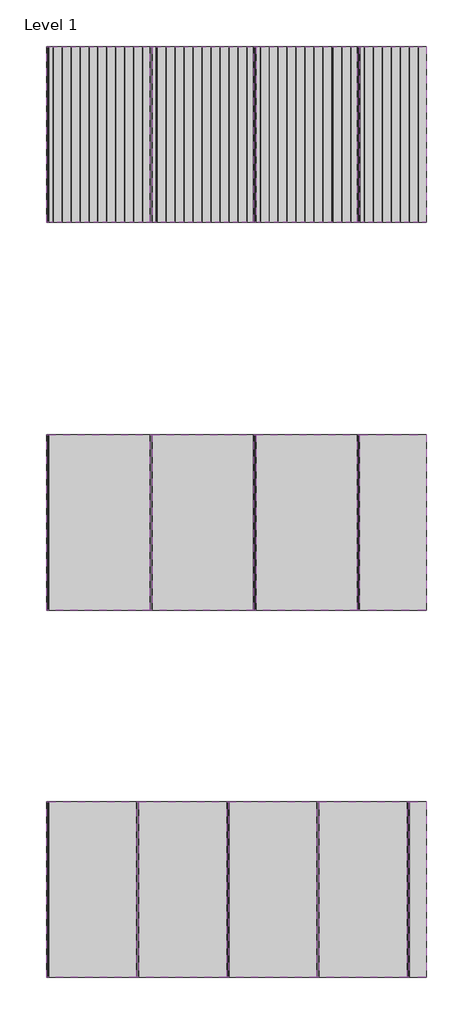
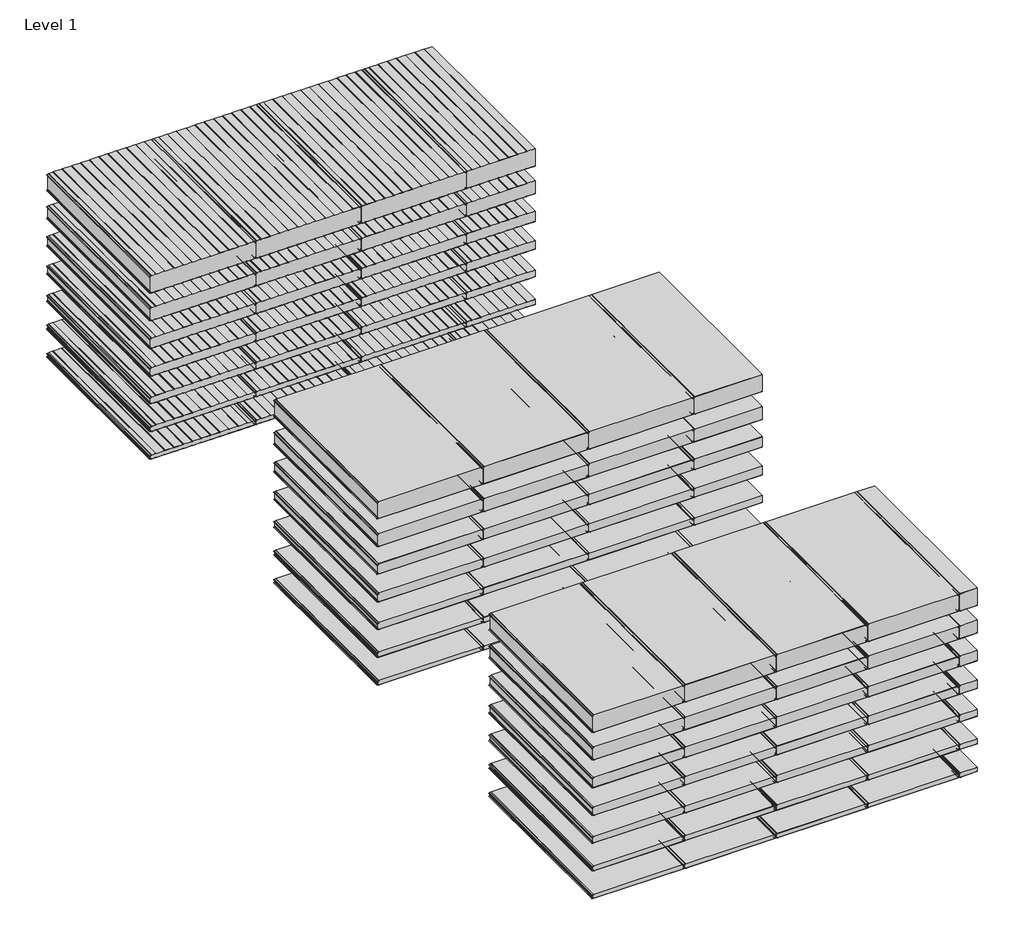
# One storey, part 1 of 4: 91 plates.
"""IFC4 building model written with IfcOpenShell, lengths in millimetres."""

from ifc_helpers import new_model, si_unit, origin, place, context, project, spatial, transform, mapped, element, save
from components import pm1_curtain_panel_flat_profile_e10bb834, pm1_curtain_panel_flat_profile_e4c4468b, pm1_curtain_panel_flat_profile_d683fd57, pm1_curtain_panel_flat_profile_28417d67, pm1_curtain_panel_flat_profile_38d8eda8, pm1_curtain_panel_flat_profile_87bdf2c1, pm1_curtain_panel_flat_profile_24c4898d, pm1_curtain_panel_flat_profile_1d2014c8, pm1_curtain_panel_flat_profile_3b441832, pm1_curtain_panel_flat_profile_61f180d3, pm1_curtain_panel_flat_profile_9da28195, pm1_curtain_panel_flat_profile_449bc577, pm1_curtain_panel_flat_profile_6b683dde, pm1_curtain_panel_flat_profile_43c2f4df, pm1_curtain_panel_micro_ribbed_profile_30c74792, pm1_curtain_panel_micro_ribbed_profile_b77677c2, pm1_curtain_panel_micro_ribbed_profile_ceefda32, pm1_curtain_panel_micro_ribbed_profile_d67f2b87, pm1_curtain_panel_micro_ribbed_profile_48cc8e15, pm1_curtain_panel_micro_ribbed_profile_fcd02327, pm1_curtain_panel_micro_ribbed_profile_a62dc2c1, pm1_curtain_panel_micro_ribbed_profile_8fb5820e, pm1_curtain_panel_micro_ribbed_profile_298a3a5b, pm1_curtain_panel_micro_ribbed_profile_ab274a87, pm1_curtain_panel_micro_ribbed_profile_64cba3bc, pm1_curtain_panel_micro_ribbed_profile_cd397411, pm1_curtain_panel_micro_ribbed_profile_67f7228b, pm1_curtain_panel_micro_ribbed_profile_d84f3b6b, pmh_curtain_panel_flat_profile_34526b51, pmh_curtain_panel_flat_profile_a0c31ac1, pmh_curtain_panel_flat_profile_7f0bee08, pmh_curtain_panel_flat_profile_5727f60d, pmh_curtain_panel_flat_profile_f58c8318, pmh_curtain_panel_flat_profile_b96734d3, pmh_curtain_panel_flat_profile_00a58165, pmh_curtain_panel_flat_profile_fc6ff3bb, pmh_curtain_panel_flat_profile_669fca09, pmh_curtain_panel_flat_profile_94c8216d, pmh_curtain_panel_flat_profile_6eb7b3d5, pmh_curtain_panel_flat_profile_8c9b6431, pmh_curtain_panel_flat_profile_30854e42, pmh_curtain_panel_flat_profile_756ba8ea

model = new_model("IFC4")

# Units and contexts
model_context = context("Model", 3, world=origin())
ifc_project = project(units=[si_unit("LENGTHUNIT", "METRE", prefix="MILLI")], contexts=[model_context])

# Site, building, storey
site = spatial("IfcSite", under=ifc_project)
building = spatial("IfcBuilding", under=site)
storey = spatial("IfcBuildingStorey", under=building, Name="Level 1", Elevation=0.0)

# Plates
placement = place(None, origin())
pm1_curtain_panel_flat_profile_shape = pm1_curtain_panel_flat_profile_e10bb834(model_context)
element("IfcPlate", 1, ObjectType="PM1_Curtain-Panel_Flat-profile : ACH_PM1_Stone-wool-Panel_200M", at=placement, inside=storey, context=model_context, shape_type="MappedRepresentation", body=[
    mapped(pm1_curtain_panel_flat_profile_shape, transform((-20457.9364012, -9019.7144508, 1920.0), x_axis=(1.0, 0.0, 0.0), y_axis=(0.0, 0.0, -1.0), z_axis=(0.0, 1.0, 0.0))),
])
element("IfcPlate", 2, ObjectType="PM1_Curtain-Panel_Flat-profile : ACH_PM1_Stone-wool-Panel_200M", at=placement, inside=storey, context=model_context, shape_type="MappedRepresentation", body=[
    mapped(pm1_curtain_panel_flat_profile_shape, transform((-19307.9364012, -9019.7144508, 1920.0), x_axis=(1.0, 0.0, 0.0), y_axis=(0.0, 0.0, -1.0), z_axis=(0.0, 1.0, 0.0))),
])
element("IfcPlate", 3, ObjectType="PM1_Curtain-Panel_Flat-profile : ACH_PM1_Stone-wool-Panel_200M", at=placement, inside=storey, context=model_context, shape_type="MappedRepresentation", body=[
    mapped(pm1_curtain_panel_flat_profile_shape, transform((-18157.9364012, -9019.7144508, 1920.0), x_axis=(1.0, 0.0, 0.0), y_axis=(0.0, 0.0, -1.0), z_axis=(0.0, 1.0, 0.0))),
])
pm1_curtain_panel_flat_profile_2_shape = pm1_curtain_panel_flat_profile_e4c4468b(model_context)
element("IfcPlate", 4, ObjectType="PM1_Curtain-Panel_Flat-profile : ACH_PM1_Stone-wool-Panel_200M", at=placement, inside=storey, context=model_context, shape_type="MappedRepresentation", body=[
    mapped(pm1_curtain_panel_flat_profile_2_shape, transform((-17207.9244272, -9019.7144508, 1920.0), x_axis=(1.0, 0.0, 0.0), y_axis=(0.0, 0.0, -1.0), z_axis=(0.0, 1.0, 0.0))),
])
pm1_curtain_panel_flat_profile_3_shape = pm1_curtain_panel_flat_profile_d683fd57(model_context)
element("IfcPlate", 5, ObjectType="PM1_Curtain-Panel_Flat-profile : ACH_PM1_Stone-wool-Panel_150M", at=placement, inside=storey, context=model_context, shape_type="MappedRepresentation", body=[
    mapped(pm1_curtain_panel_flat_profile_3_shape, transform((-20457.9364012, -9019.7144508, 1600.0), x_axis=(1.0, 0.0, 0.0), y_axis=(0.0, 0.0, -1.0), z_axis=(0.0, 1.0, 0.0))),
])
element("IfcPlate", 6, ObjectType="PM1_Curtain-Panel_Flat-profile : ACH_PM1_Stone-wool-Panel_150M", at=placement, inside=storey, context=model_context, shape_type="MappedRepresentation", body=[
    mapped(pm1_curtain_panel_flat_profile_3_shape, transform((-19307.9364012, -9019.7144508, 1600.0), x_axis=(1.0, 0.0, 0.0), y_axis=(0.0, 0.0, -1.0), z_axis=(0.0, 1.0, 0.0))),
])
element("IfcPlate", 7, ObjectType="PM1_Curtain-Panel_Flat-profile : ACH_PM1_Stone-wool-Panel_150M", at=placement, inside=storey, context=model_context, shape_type="MappedRepresentation", body=[
    mapped(pm1_curtain_panel_flat_profile_3_shape, transform((-18157.9364012, -9019.7144508, 1600.0), x_axis=(1.0, 0.0, 0.0), y_axis=(0.0, 0.0, -1.0), z_axis=(0.0, 1.0, 0.0))),
])
pm1_curtain_panel_flat_profile_4_shape = pm1_curtain_panel_flat_profile_28417d67(model_context)
element("IfcPlate", 8, ObjectType="PM1_Curtain-Panel_Flat-profile : ACH_PM1_Stone-wool-Panel_150M", at=placement, inside=storey, context=model_context, shape_type="MappedRepresentation", body=[
    mapped(pm1_curtain_panel_flat_profile_4_shape, transform((-17207.9244272, -9019.7144508, 1600.0), x_axis=(1.0, 0.0, 0.0), y_axis=(0.0, 0.0, -1.0), z_axis=(0.0, 1.0, 0.0))),
])
pm1_curtain_panel_flat_profile_5_shape = pm1_curtain_panel_flat_profile_38d8eda8(model_context)
element("IfcPlate", 9, ObjectType="PM1_Curtain-Panel_Flat-profile : ACH_PM1_Stone-wool-Panel_120M", at=placement, inside=storey, context=model_context, shape_type="MappedRepresentation", body=[
    mapped(pm1_curtain_panel_flat_profile_5_shape, transform((-20457.9364012, -9019.7144508, 1280.0), x_axis=(1.0, 0.0, 0.0), y_axis=(0.0, 0.0, -1.0), z_axis=(0.0, 1.0, 0.0))),
])
element("IfcPlate", 10, ObjectType="PM1_Curtain-Panel_Flat-profile : ACH_PM1_Stone-wool-Panel_120M", at=placement, inside=storey, context=model_context, shape_type="MappedRepresentation", body=[
    mapped(pm1_curtain_panel_flat_profile_5_shape, transform((-19307.9364012, -9019.7144508, 1280.0), x_axis=(1.0, 0.0, 0.0), y_axis=(0.0, 0.0, -1.0), z_axis=(0.0, 1.0, 0.0))),
])
element("IfcPlate", 11, ObjectType="PM1_Curtain-Panel_Flat-profile : ACH_PM1_Stone-wool-Panel_120M", at=placement, inside=storey, context=model_context, shape_type="MappedRepresentation", body=[
    mapped(pm1_curtain_panel_flat_profile_5_shape, transform((-18157.9364012, -9019.7144508, 1280.0), x_axis=(1.0, 0.0, 0.0), y_axis=(0.0, 0.0, -1.0), z_axis=(0.0, 1.0, 0.0))),
])
pm1_curtain_panel_flat_profile_6_shape = pm1_curtain_panel_flat_profile_87bdf2c1(model_context)
element("IfcPlate", 12, ObjectType="PM1_Curtain-Panel_Flat-profile : ACH_PM1_Stone-wool-Panel_120M", at=placement, inside=storey, context=model_context, shape_type="MappedRepresentation", body=[
    mapped(pm1_curtain_panel_flat_profile_6_shape, transform((-17207.9244272, -9019.7144508, 1280.0), x_axis=(1.0, 0.0, 0.0), y_axis=(0.0, 0.0, -1.0), z_axis=(0.0, 1.0, 0.0))),
])
pm1_curtain_panel_flat_profile_7_shape = pm1_curtain_panel_flat_profile_24c4898d(model_context)
element("IfcPlate", 13, ObjectType="PM1_Curtain-Panel_Flat-profile : ACH_PM1_Stone-wool-Panel_100M", at=placement, inside=storey, context=model_context, shape_type="MappedRepresentation", body=[
    mapped(pm1_curtain_panel_flat_profile_7_shape, transform((-20457.9364012, -9019.7144508, 960.0), x_axis=(1.0, 0.0, 0.0), y_axis=(0.0, 0.0, -1.0), z_axis=(0.0, 1.0, 0.0))),
])
element("IfcPlate", 14, ObjectType="PM1_Curtain-Panel_Flat-profile : ACH_PM1_Stone-wool-Panel_100M", at=placement, inside=storey, context=model_context, shape_type="MappedRepresentation", body=[
    mapped(pm1_curtain_panel_flat_profile_7_shape, transform((-19307.9364012, -9019.7144508, 960.0), x_axis=(1.0, 0.0, 0.0), y_axis=(0.0, 0.0, -1.0), z_axis=(0.0, 1.0, 0.0))),
])
element("IfcPlate", 15, ObjectType="PM1_Curtain-Panel_Flat-profile : ACH_PM1_Stone-wool-Panel_100M", at=placement, inside=storey, context=model_context, shape_type="MappedRepresentation", body=[
    mapped(pm1_curtain_panel_flat_profile_7_shape, transform((-18157.9364012, -9019.7144508, 960.0), x_axis=(1.0, 0.0, 0.0), y_axis=(0.0, 0.0, -1.0), z_axis=(0.0, 1.0, 0.0))),
])
pm1_curtain_panel_flat_profile_8_shape = pm1_curtain_panel_flat_profile_1d2014c8(model_context)
element("IfcPlate", 16, ObjectType="PM1_Curtain-Panel_Flat-profile : ACH_PM1_Stone-wool-Panel_100M", at=placement, inside=storey, context=model_context, shape_type="MappedRepresentation", body=[
    mapped(pm1_curtain_panel_flat_profile_8_shape, transform((-17207.9244272, -9019.7144508, 960.0), x_axis=(1.0, 0.0, 0.0), y_axis=(0.0, 0.0, -1.0), z_axis=(0.0, 1.0, 0.0))),
])
pm1_curtain_panel_flat_profile_9_shape = pm1_curtain_panel_flat_profile_3b441832(model_context)
element("IfcPlate", 17, ObjectType="PM1_Curtain-Panel_Flat-profile : ACH_PM1_Stone-wool-Panel_80M", at=placement, inside=storey, context=model_context, shape_type="MappedRepresentation", body=[
    mapped(pm1_curtain_panel_flat_profile_9_shape, transform((-20457.9364012, -9019.7144508, 640.0), x_axis=(1.0, 0.0, 0.0), y_axis=(0.0, 0.0, -1.0), z_axis=(0.0, 1.0, 0.0))),
])
element("IfcPlate", 18, ObjectType="PM1_Curtain-Panel_Flat-profile : ACH_PM1_Stone-wool-Panel_80M", at=placement, inside=storey, context=model_context, shape_type="MappedRepresentation", body=[
    mapped(pm1_curtain_panel_flat_profile_9_shape, transform((-19307.9364012, -9019.7144508, 640.0), x_axis=(1.0, 0.0, 0.0), y_axis=(0.0, 0.0, -1.0), z_axis=(0.0, 1.0, 0.0))),
])
element("IfcPlate", 19, ObjectType="PM1_Curtain-Panel_Flat-profile : ACH_PM1_Stone-wool-Panel_80M", at=placement, inside=storey, context=model_context, shape_type="MappedRepresentation", body=[
    mapped(pm1_curtain_panel_flat_profile_9_shape, transform((-18157.9364012, -9019.7144508, 640.0), x_axis=(1.0, 0.0, 0.0), y_axis=(0.0, 0.0, -1.0), z_axis=(0.0, 1.0, 0.0))),
])
pm1_curtain_panel_flat_profile_10_shape = pm1_curtain_panel_flat_profile_61f180d3(model_context)
element("IfcPlate", 20, ObjectType="PM1_Curtain-Panel_Flat-profile : ACH_PM1_Stone-wool-Panel_80M", at=placement, inside=storey, context=model_context, shape_type="MappedRepresentation", body=[
    mapped(pm1_curtain_panel_flat_profile_10_shape, transform((-17207.9244272, -9019.7144508, 640.0), x_axis=(1.0, 0.0, 0.0), y_axis=(0.0, 0.0, -1.0), z_axis=(0.0, 1.0, 0.0))),
])
pm1_curtain_panel_flat_profile_11_shape = pm1_curtain_panel_flat_profile_9da28195(model_context)
element("IfcPlate", 21, ObjectType="PM1_Curtain-Panel_Flat-profile : ACH_PM1_Stone-wool-Panel_60M", at=placement, inside=storey, context=model_context, shape_type="MappedRepresentation", body=[
    mapped(pm1_curtain_panel_flat_profile_11_shape, transform((-20457.9364012, -9019.7144508, 320.0), x_axis=(1.0, 0.0, 0.0), y_axis=(0.0, 0.0, -1.0), z_axis=(0.0, 1.0, 0.0))),
])
element("IfcPlate", 22, ObjectType="PM1_Curtain-Panel_Flat-profile : ACH_PM1_Stone-wool-Panel_60M", at=placement, inside=storey, context=model_context, shape_type="MappedRepresentation", body=[
    mapped(pm1_curtain_panel_flat_profile_11_shape, transform((-19307.9364012, -9019.7144508, 320.0), x_axis=(1.0, 0.0, 0.0), y_axis=(0.0, 0.0, -1.0), z_axis=(0.0, 1.0, 0.0))),
])
element("IfcPlate", 23, ObjectType="PM1_Curtain-Panel_Flat-profile : ACH_PM1_Stone-wool-Panel_60M", at=placement, inside=storey, context=model_context, shape_type="MappedRepresentation", body=[
    mapped(pm1_curtain_panel_flat_profile_11_shape, transform((-18157.9364012, -9019.7144508, 320.0), x_axis=(1.0, 0.0, 0.0), y_axis=(0.0, 0.0, -1.0), z_axis=(0.0, 1.0, 0.0))),
])
pm1_curtain_panel_flat_profile_12_shape = pm1_curtain_panel_flat_profile_449bc577(model_context)
element("IfcPlate", 24, ObjectType="PM1_Curtain-Panel_Flat-profile : ACH_PM1_Stone-wool-Panel_60M", at=placement, inside=storey, context=model_context, shape_type="MappedRepresentation", body=[
    mapped(pm1_curtain_panel_flat_profile_12_shape, transform((-17207.9244272, -9019.7144508, 320.0), x_axis=(1.0, 0.0, 0.0), y_axis=(0.0, 0.0, -1.0), z_axis=(0.0, 1.0, 0.0))),
])
pm1_curtain_panel_flat_profile_13_shape = pm1_curtain_panel_flat_profile_6b683dde(model_context)
element("IfcPlate", 25, ObjectType="PM1_Curtain-Panel_Flat-profile : ACH_PM1_Stone-wool-Panel_50M", at=placement, inside=storey, context=model_context, shape_type="MappedRepresentation", body=[
    mapped(pm1_curtain_panel_flat_profile_13_shape, transform((-20457.9364012, -9019.7144508, 0.0), x_axis=(1.0, 0.0, 0.0), y_axis=(0.0, 0.0, -1.0), z_axis=(0.0, 1.0, 0.0))),
])
element("IfcPlate", 26, ObjectType="PM1_Curtain-Panel_Flat-profile : ACH_PM1_Stone-wool-Panel_50M", at=placement, inside=storey, context=model_context, shape_type="MappedRepresentation", body=[
    mapped(pm1_curtain_panel_flat_profile_13_shape, transform((-19307.9364012, -9019.7144508, 0.0), x_axis=(1.0, 0.0, 0.0), y_axis=(0.0, 0.0, -1.0), z_axis=(0.0, 1.0, 0.0))),
])
element("IfcPlate", 27, ObjectType="PM1_Curtain-Panel_Flat-profile : ACH_PM1_Stone-wool-Panel_50M", at=placement, inside=storey, context=model_context, shape_type="MappedRepresentation", body=[
    mapped(pm1_curtain_panel_flat_profile_13_shape, transform((-18157.9364012, -9019.7144508, 0.0), x_axis=(1.0, 0.0, 0.0), y_axis=(0.0, 0.0, -1.0), z_axis=(0.0, 1.0, 0.0))),
])
pm1_curtain_panel_flat_profile_14_shape = pm1_curtain_panel_flat_profile_43c2f4df(model_context)
element("IfcPlate", 28, ObjectType="PM1_Curtain-Panel_Flat-profile : ACH_PM1_Stone-wool-Panel_50M", at=placement, inside=storey, context=model_context, shape_type="MappedRepresentation", body=[
    mapped(pm1_curtain_panel_flat_profile_14_shape, transform((-17207.9244272, -9019.7144508, 0.0), x_axis=(1.0, 0.0, 0.0), y_axis=(0.0, 0.0, -1.0), z_axis=(0.0, 1.0, 0.0))),
])
pm1_curtain_panel_micro_ribbed_profile_shape = pm1_curtain_panel_micro_ribbed_profile_30c74792(model_context)
element("IfcPlate", 29, ObjectType="PM1_Curtain-Panel_Micro-ribbed-profile : ACH_PM1_Stone-wool-Panel_200M", at=placement, inside=storey, context=model_context, shape_type="MappedRepresentation", body=[
    mapped(pm1_curtain_panel_micro_ribbed_profile_shape, transform((-20457.9364012, -4719.7144508, 1920.0), x_axis=(1.0, 0.0, 0.0), y_axis=(0.0, 0.0, -1.0), z_axis=(0.0, 1.0, 0.0))),
])
element("IfcPlate", 30, ObjectType="PM1_Curtain-Panel_Micro-ribbed-profile : ACH_PM1_Stone-wool-Panel_200M", at=placement, inside=storey, context=model_context, shape_type="MappedRepresentation", body=[
    mapped(pm1_curtain_panel_micro_ribbed_profile_shape, transform((-19307.9364012, -4719.7144508, 1920.0), x_axis=(1.0, 0.0, 0.0), y_axis=(0.0, 0.0, -1.0), z_axis=(0.0, 1.0, 0.0))),
])
element("IfcPlate", 31, ObjectType="PM1_Curtain-Panel_Micro-ribbed-profile : ACH_PM1_Stone-wool-Panel_200M", at=placement, inside=storey, context=model_context, shape_type="MappedRepresentation", body=[
    mapped(pm1_curtain_panel_micro_ribbed_profile_shape, transform((-18157.9364012, -4719.7144508, 1920.0), x_axis=(1.0, 0.0, 0.0), y_axis=(0.0, 0.0, -1.0), z_axis=(0.0, 1.0, 0.0))),
])
pm1_curtain_panel_micro_ribbed_profile_2_shape = pm1_curtain_panel_micro_ribbed_profile_b77677c2(model_context)
element("IfcPlate", 32, ObjectType="PM1_Curtain-Panel_Micro-ribbed-profile : ACH_PM1_Stone-wool-Panel_200M", at=placement, inside=storey, context=model_context, shape_type="MappedRepresentation", body=[
    mapped(pm1_curtain_panel_micro_ribbed_profile_2_shape, transform((-17207.9244272, -4719.7144508, 1920.0), x_axis=(1.0, 0.0, 0.0), y_axis=(0.0, 0.0, -1.0), z_axis=(0.0, 1.0, 0.0))),
])
pm1_curtain_panel_micro_ribbed_profile_3_shape = pm1_curtain_panel_micro_ribbed_profile_ceefda32(model_context)
element("IfcPlate", 33, ObjectType="PM1_Curtain-Panel_Micro-ribbed-profile : ACH_PM1_Stone-wool-Panel_150M", at=placement, inside=storey, context=model_context, shape_type="MappedRepresentation", body=[
    mapped(pm1_curtain_panel_micro_ribbed_profile_3_shape, transform((-20457.9364012, -4719.7144508, 1600.0), x_axis=(1.0, 0.0, 0.0), y_axis=(0.0, 0.0, -1.0), z_axis=(0.0, 1.0, 0.0))),
])
element("IfcPlate", 34, ObjectType="PM1_Curtain-Panel_Micro-ribbed-profile : ACH_PM1_Stone-wool-Panel_150M", at=placement, inside=storey, context=model_context, shape_type="MappedRepresentation", body=[
    mapped(pm1_curtain_panel_micro_ribbed_profile_3_shape, transform((-19307.9364012, -4719.7144508, 1600.0), x_axis=(1.0, 0.0, 0.0), y_axis=(0.0, 0.0, -1.0), z_axis=(0.0, 1.0, 0.0))),
])
element("IfcPlate", 35, ObjectType="PM1_Curtain-Panel_Micro-ribbed-profile : ACH_PM1_Stone-wool-Panel_150M", at=placement, inside=storey, context=model_context, shape_type="MappedRepresentation", body=[
    mapped(pm1_curtain_panel_micro_ribbed_profile_3_shape, transform((-18157.9364012, -4719.7144508, 1600.0), x_axis=(1.0, 0.0, 0.0), y_axis=(0.0, 0.0, -1.0), z_axis=(0.0, 1.0, 0.0))),
])
pm1_curtain_panel_micro_ribbed_profile_4_shape = pm1_curtain_panel_micro_ribbed_profile_d67f2b87(model_context)
element("IfcPlate", 36, ObjectType="PM1_Curtain-Panel_Micro-ribbed-profile : ACH_PM1_Stone-wool-Panel_150M", at=placement, inside=storey, context=model_context, shape_type="MappedRepresentation", body=[
    mapped(pm1_curtain_panel_micro_ribbed_profile_4_shape, transform((-17207.9244272, -4719.7144508, 1600.0), x_axis=(1.0, 0.0, 0.0), y_axis=(0.0, 0.0, -1.0), z_axis=(0.0, 1.0, 0.0))),
])
pm1_curtain_panel_micro_ribbed_profile_5_shape = pm1_curtain_panel_micro_ribbed_profile_48cc8e15(model_context)
element("IfcPlate", 37, ObjectType="PM1_Curtain-Panel_Micro-ribbed-profile : ACH_PM1_Stone-wool-Panel_120M", at=placement, inside=storey, context=model_context, shape_type="MappedRepresentation", body=[
    mapped(pm1_curtain_panel_micro_ribbed_profile_5_shape, transform((-20457.9364012, -4719.7144508, 1280.0), x_axis=(1.0, 0.0, 0.0), y_axis=(0.0, 0.0, -1.0), z_axis=(0.0, 1.0, 0.0))),
])
element("IfcPlate", 38, ObjectType="PM1_Curtain-Panel_Micro-ribbed-profile : ACH_PM1_Stone-wool-Panel_120M", at=placement, inside=storey, context=model_context, shape_type="MappedRepresentation", body=[
    mapped(pm1_curtain_panel_micro_ribbed_profile_5_shape, transform((-19307.9364012, -4719.7144508, 1280.0), x_axis=(1.0, 0.0, 0.0), y_axis=(0.0, 0.0, -1.0), z_axis=(0.0, 1.0, 0.0))),
])
element("IfcPlate", 39, ObjectType="PM1_Curtain-Panel_Micro-ribbed-profile : ACH_PM1_Stone-wool-Panel_120M", at=placement, inside=storey, context=model_context, shape_type="MappedRepresentation", body=[
    mapped(pm1_curtain_panel_micro_ribbed_profile_5_shape, transform((-18157.9364012, -4719.7144508, 1280.0), x_axis=(1.0, 0.0, 0.0), y_axis=(0.0, 0.0, -1.0), z_axis=(0.0, 1.0, 0.0))),
])
pm1_curtain_panel_micro_ribbed_profile_6_shape = pm1_curtain_panel_micro_ribbed_profile_fcd02327(model_context)
element("IfcPlate", 40, ObjectType="PM1_Curtain-Panel_Micro-ribbed-profile : ACH_PM1_Stone-wool-Panel_120M", at=placement, inside=storey, context=model_context, shape_type="MappedRepresentation", body=[
    mapped(pm1_curtain_panel_micro_ribbed_profile_6_shape, transform((-17207.9244272, -4719.7144508, 1280.0), x_axis=(1.0, 0.0, 0.0), y_axis=(0.0, 0.0, -1.0), z_axis=(0.0, 1.0, 0.0))),
])
pm1_curtain_panel_micro_ribbed_profile_7_shape = pm1_curtain_panel_micro_ribbed_profile_a62dc2c1(model_context)
element("IfcPlate", 41, ObjectType="PM1_Curtain-Panel_Micro-ribbed-profile : ACH_PM1_Stone-wool-Panel_80M", at=placement, inside=storey, context=model_context, shape_type="MappedRepresentation", body=[
    mapped(pm1_curtain_panel_micro_ribbed_profile_7_shape, transform((-20457.9364012, -4719.7144508, 640.0), x_axis=(1.0, 0.0, 0.0), y_axis=(0.0, 0.0, -1.0), z_axis=(0.0, 1.0, 0.0))),
])
element("IfcPlate", 42, ObjectType="PM1_Curtain-Panel_Micro-ribbed-profile : ACH_PM1_Stone-wool-Panel_80M", at=placement, inside=storey, context=model_context, shape_type="MappedRepresentation", body=[
    mapped(pm1_curtain_panel_micro_ribbed_profile_7_shape, transform((-19307.9364012, -4719.7144508, 640.0), x_axis=(1.0, 0.0, 0.0), y_axis=(0.0, 0.0, -1.0), z_axis=(0.0, 1.0, 0.0))),
])
element("IfcPlate", 43, ObjectType="PM1_Curtain-Panel_Micro-ribbed-profile : ACH_PM1_Stone-wool-Panel_80M", at=placement, inside=storey, context=model_context, shape_type="MappedRepresentation", body=[
    mapped(pm1_curtain_panel_micro_ribbed_profile_7_shape, transform((-18157.9364012, -4719.7144508, 640.0), x_axis=(1.0, 0.0, 0.0), y_axis=(0.0, 0.0, -1.0), z_axis=(0.0, 1.0, 0.0))),
])
pm1_curtain_panel_micro_ribbed_profile_8_shape = pm1_curtain_panel_micro_ribbed_profile_8fb5820e(model_context)
element("IfcPlate", 44, ObjectType="PM1_Curtain-Panel_Micro-ribbed-profile : ACH_PM1_Stone-wool-Panel_80M", at=placement, inside=storey, context=model_context, shape_type="MappedRepresentation", body=[
    mapped(pm1_curtain_panel_micro_ribbed_profile_8_shape, transform((-17207.9244272, -4719.7144508, 640.0), x_axis=(1.0, 0.0, 0.0), y_axis=(0.0, 0.0, -1.0), z_axis=(0.0, 1.0, 0.0))),
])
pm1_curtain_panel_micro_ribbed_profile_9_shape = pm1_curtain_panel_micro_ribbed_profile_298a3a5b(model_context)
element("IfcPlate", 45, ObjectType="PM1_Curtain-Panel_Micro-ribbed-profile : ACH_PM1_Stone-wool-Panel_100M", at=placement, inside=storey, context=model_context, shape_type="MappedRepresentation", body=[
    mapped(pm1_curtain_panel_micro_ribbed_profile_9_shape, transform((-20457.9364012, -4719.7144508, 960.0), x_axis=(1.0, 0.0, 0.0), y_axis=(0.0, 0.0, -1.0), z_axis=(0.0, 1.0, 0.0))),
])
element("IfcPlate", 46, ObjectType="PM1_Curtain-Panel_Micro-ribbed-profile : ACH_PM1_Stone-wool-Panel_100M", at=placement, inside=storey, context=model_context, shape_type="MappedRepresentation", body=[
    mapped(pm1_curtain_panel_micro_ribbed_profile_9_shape, transform((-19307.9364012, -4719.7144508, 960.0), x_axis=(1.0, 0.0, 0.0), y_axis=(0.0, 0.0, -1.0), z_axis=(0.0, 1.0, 0.0))),
])
element("IfcPlate", 47, ObjectType="PM1_Curtain-Panel_Micro-ribbed-profile : ACH_PM1_Stone-wool-Panel_100M", at=placement, inside=storey, context=model_context, shape_type="MappedRepresentation", body=[
    mapped(pm1_curtain_panel_micro_ribbed_profile_9_shape, transform((-18157.9364012, -4719.7144508, 960.0), x_axis=(1.0, 0.0, 0.0), y_axis=(0.0, 0.0, -1.0), z_axis=(0.0, 1.0, 0.0))),
])
pm1_curtain_panel_micro_ribbed_profile_10_shape = pm1_curtain_panel_micro_ribbed_profile_ab274a87(model_context)
element("IfcPlate", 48, ObjectType="PM1_Curtain-Panel_Micro-ribbed-profile : ACH_PM1_Stone-wool-Panel_100M", at=placement, inside=storey, context=model_context, shape_type="MappedRepresentation", body=[
    mapped(pm1_curtain_panel_micro_ribbed_profile_10_shape, transform((-17207.9244272, -4719.7144508, 960.0), x_axis=(1.0, 0.0, 0.0), y_axis=(0.0, 0.0, -1.0), z_axis=(0.0, 1.0, 0.0))),
])
pm1_curtain_panel_micro_ribbed_profile_11_shape = pm1_curtain_panel_micro_ribbed_profile_64cba3bc(model_context)
element("IfcPlate", 49, ObjectType="PM1_Curtain-Panel_Micro-ribbed-profile : ACH_PM1_Stone-wool-Panel_60M", at=placement, inside=storey, context=model_context, shape_type="MappedRepresentation", body=[
    mapped(pm1_curtain_panel_micro_ribbed_profile_11_shape, transform((-20457.9364012, -4719.7144508, 320.0), x_axis=(1.0, 0.0, 0.0), y_axis=(0.0, 0.0, -1.0), z_axis=(0.0, 1.0, 0.0))),
])
element("IfcPlate", 50, ObjectType="PM1_Curtain-Panel_Micro-ribbed-profile : ACH_PM1_Stone-wool-Panel_60M", at=placement, inside=storey, context=model_context, shape_type="MappedRepresentation", body=[
    mapped(pm1_curtain_panel_micro_ribbed_profile_11_shape, transform((-19307.9364012, -4719.7144508, 320.0), x_axis=(1.0, 0.0, 0.0), y_axis=(0.0, 0.0, -1.0), z_axis=(0.0, 1.0, 0.0))),
])
element("IfcPlate", 51, ObjectType="PM1_Curtain-Panel_Micro-ribbed-profile : ACH_PM1_Stone-wool-Panel_60M", at=placement, inside=storey, context=model_context, shape_type="MappedRepresentation", body=[
    mapped(pm1_curtain_panel_micro_ribbed_profile_11_shape, transform((-18157.9364012, -4719.7144508, 320.0), x_axis=(1.0, 0.0, 0.0), y_axis=(0.0, 0.0, -1.0), z_axis=(0.0, 1.0, 0.0))),
])
pm1_curtain_panel_micro_ribbed_profile_12_shape = pm1_curtain_panel_micro_ribbed_profile_cd397411(model_context)
element("IfcPlate", 52, ObjectType="PM1_Curtain-Panel_Micro-ribbed-profile : ACH_PM1_Stone-wool-Panel_60M", at=placement, inside=storey, context=model_context, shape_type="MappedRepresentation", body=[
    mapped(pm1_curtain_panel_micro_ribbed_profile_12_shape, transform((-17207.9244272, -4719.7144508, 320.0), x_axis=(1.0, 0.0, 0.0), y_axis=(0.0, 0.0, -1.0), z_axis=(0.0, 1.0, 0.0))),
])
pm1_curtain_panel_micro_ribbed_profile_13_shape = pm1_curtain_panel_micro_ribbed_profile_67f7228b(model_context)
element("IfcPlate", 53, ObjectType="PM1_Curtain-Panel_Micro-ribbed-profile : ACH_PM1_Stone-wool-Panel_50M", at=placement, inside=storey, context=model_context, shape_type="MappedRepresentation", body=[
    mapped(pm1_curtain_panel_micro_ribbed_profile_13_shape, transform((-20457.9364012, -4719.7144508, 0.0), x_axis=(1.0, 0.0, 0.0), y_axis=(0.0, 0.0, -1.0), z_axis=(0.0, 1.0, 0.0))),
])
element("IfcPlate", 54, ObjectType="PM1_Curtain-Panel_Micro-ribbed-profile : ACH_PM1_Stone-wool-Panel_50M", at=placement, inside=storey, context=model_context, shape_type="MappedRepresentation", body=[
    mapped(pm1_curtain_panel_micro_ribbed_profile_13_shape, transform((-19307.9364012, -4719.7144508, 0.0), x_axis=(1.0, 0.0, 0.0), y_axis=(0.0, 0.0, -1.0), z_axis=(0.0, 1.0, 0.0))),
])
element("IfcPlate", 55, ObjectType="PM1_Curtain-Panel_Micro-ribbed-profile : ACH_PM1_Stone-wool-Panel_50M", at=placement, inside=storey, context=model_context, shape_type="MappedRepresentation", body=[
    mapped(pm1_curtain_panel_micro_ribbed_profile_13_shape, transform((-18157.9364012, -4719.7144508, 0.0), x_axis=(1.0, 0.0, 0.0), y_axis=(0.0, 0.0, -1.0), z_axis=(0.0, 1.0, 0.0))),
])
pm1_curtain_panel_micro_ribbed_profile_14_shape = pm1_curtain_panel_micro_ribbed_profile_d84f3b6b(model_context)
element("IfcPlate", 56, ObjectType="PM1_Curtain-Panel_Micro-ribbed-profile : ACH_PM1_Stone-wool-Panel_50M", at=placement, inside=storey, context=model_context, shape_type="MappedRepresentation", body=[
    mapped(pm1_curtain_panel_micro_ribbed_profile_14_shape, transform((-17207.9244272, -4719.7144508, 0.0), x_axis=(1.0, 0.0, 0.0), y_axis=(0.0, 0.0, -1.0), z_axis=(0.0, 1.0, 0.0))),
])
pmh_curtain_panel_flat_profile_shape = pmh_curtain_panel_flat_profile_34526b51(model_context)
element("IfcPlate", 57, ObjectType="PMH_Curtain-Panel_Flat-profile : ACH_PMH_Stone-wool-Panel_50M", at=placement, inside=storey, context=model_context, shape_type="MappedRepresentation", body=[
    mapped(pmh_curtain_panel_flat_profile_shape, transform((-20532.9364012, -13087.9885447, 0.0), x_axis=(1.0, 0.0, 0.0), y_axis=(0.0, 0.0, -1.0), z_axis=(0.0, 1.0, 0.0))),
])
element("IfcPlate", 58, ObjectType="PMH_Curtain-Panel_Flat-profile : ACH_PMH_Stone-wool-Panel_50M", at=placement, inside=storey, context=model_context, shape_type="MappedRepresentation", body=[
    mapped(pmh_curtain_panel_flat_profile_shape, transform((-19532.9364012, -13087.9885447, 0.0), x_axis=(1.0, 0.0, 0.0), y_axis=(0.0, 0.0, -1.0), z_axis=(0.0, 1.0, 0.0))),
])
element("IfcPlate", 59, ObjectType="PMH_Curtain-Panel_Flat-profile : ACH_PMH_Stone-wool-Panel_50M", at=placement, inside=storey, context=model_context, shape_type="MappedRepresentation", body=[
    mapped(pmh_curtain_panel_flat_profile_shape, transform((-18532.9364012, -13087.9885447, 0.0), x_axis=(1.0, 0.0, 0.0), y_axis=(0.0, 0.0, -1.0), z_axis=(0.0, 1.0, 0.0))),
])
element("IfcPlate", 60, ObjectType="PMH_Curtain-Panel_Flat-profile : ACH_PMH_Stone-wool-Panel_50M", at=placement, inside=storey, context=model_context, shape_type="MappedRepresentation", body=[
    mapped(pmh_curtain_panel_flat_profile_shape, transform((-17532.9364012, -13087.9885447, 0.0), x_axis=(1.0, 0.0, 0.0), y_axis=(0.0, 0.0, -1.0), z_axis=(0.0, 1.0, 0.0))),
])
pmh_curtain_panel_flat_profile_2_shape = pmh_curtain_panel_flat_profile_a0c31ac1(model_context)
element("IfcPlate", 61, ObjectType="PMH_Curtain-Panel_Flat-profile : ACH_PMH_Stone-wool-Panel_60M", at=placement, inside=storey, context=model_context, shape_type="MappedRepresentation", body=[
    mapped(pmh_curtain_panel_flat_profile_2_shape, transform((-20532.9364012, -13087.9885447, 320.0), x_axis=(1.0, 0.0, 0.0), y_axis=(0.0, 0.0, -1.0), z_axis=(0.0, 1.0, 0.0))),
])
element("IfcPlate", 62, ObjectType="PMH_Curtain-Panel_Flat-profile : ACH_PMH_Stone-wool-Panel_60M", at=placement, inside=storey, context=model_context, shape_type="MappedRepresentation", body=[
    mapped(pmh_curtain_panel_flat_profile_2_shape, transform((-19532.9364012, -13087.9885447, 320.0), x_axis=(1.0, 0.0, 0.0), y_axis=(0.0, 0.0, -1.0), z_axis=(0.0, 1.0, 0.0))),
])
element("IfcPlate", 63, ObjectType="PMH_Curtain-Panel_Flat-profile : ACH_PMH_Stone-wool-Panel_60M", at=placement, inside=storey, context=model_context, shape_type="MappedRepresentation", body=[
    mapped(pmh_curtain_panel_flat_profile_2_shape, transform((-18532.9364012, -13087.9885447, 320.0), x_axis=(1.0, 0.0, 0.0), y_axis=(0.0, 0.0, -1.0), z_axis=(0.0, 1.0, 0.0))),
])
element("IfcPlate", 64, ObjectType="PMH_Curtain-Panel_Flat-profile : ACH_PMH_Stone-wool-Panel_60M", at=placement, inside=storey, context=model_context, shape_type="MappedRepresentation", body=[
    mapped(pmh_curtain_panel_flat_profile_2_shape, transform((-17532.9364012, -13087.9885447, 320.0), x_axis=(1.0, 0.0, 0.0), y_axis=(0.0, 0.0, -1.0), z_axis=(0.0, 1.0, 0.0))),
])
pmh_curtain_panel_flat_profile_3_shape = pmh_curtain_panel_flat_profile_7f0bee08(model_context)
element("IfcPlate", 65, ObjectType="PMH_Curtain-Panel_Flat-profile : ACH_PMH_Stone-wool-Panel_80M", at=placement, inside=storey, context=model_context, shape_type="MappedRepresentation", body=[
    mapped(pmh_curtain_panel_flat_profile_3_shape, transform((-20532.9364012, -13087.9885447, 640.0), x_axis=(1.0, 0.0, 0.0), y_axis=(0.0, 0.0, -1.0), z_axis=(0.0, 1.0, 0.0))),
])
element("IfcPlate", 66, ObjectType="PMH_Curtain-Panel_Flat-profile : ACH_PMH_Stone-wool-Panel_80M", at=placement, inside=storey, context=model_context, shape_type="MappedRepresentation", body=[
    mapped(pmh_curtain_panel_flat_profile_3_shape, transform((-19532.9364012, -13087.9885447, 640.0), x_axis=(1.0, 0.0, 0.0), y_axis=(0.0, 0.0, -1.0), z_axis=(0.0, 1.0, 0.0))),
])
element("IfcPlate", 67, ObjectType="PMH_Curtain-Panel_Flat-profile : ACH_PMH_Stone-wool-Panel_80M", at=placement, inside=storey, context=model_context, shape_type="MappedRepresentation", body=[
    mapped(pmh_curtain_panel_flat_profile_3_shape, transform((-18532.9364012, -13087.9885447, 640.0), x_axis=(1.0, 0.0, 0.0), y_axis=(0.0, 0.0, -1.0), z_axis=(0.0, 1.0, 0.0))),
])
element("IfcPlate", 68, ObjectType="PMH_Curtain-Panel_Flat-profile : ACH_PMH_Stone-wool-Panel_80M", at=placement, inside=storey, context=model_context, shape_type="MappedRepresentation", body=[
    mapped(pmh_curtain_panel_flat_profile_3_shape, transform((-17532.9364012, -13087.9885447, 640.0), x_axis=(1.0, 0.0, 0.0), y_axis=(0.0, 0.0, -1.0), z_axis=(0.0, 1.0, 0.0))),
])
pmh_curtain_panel_flat_profile_4_shape = pmh_curtain_panel_flat_profile_5727f60d(model_context)
element("IfcPlate", 69, ObjectType="PMH_Curtain-Panel_Flat-profile : ACH_PMH_Stone-wool-Panel_100M", at=placement, inside=storey, context=model_context, shape_type="MappedRepresentation", body=[
    mapped(pmh_curtain_panel_flat_profile_4_shape, transform((-20532.9364012, -13087.9885447, 960.0), x_axis=(1.0, 0.0, 0.0), y_axis=(0.0, 0.0, -1.0), z_axis=(0.0, 1.0, 0.0))),
])
element("IfcPlate", 70, ObjectType="PMH_Curtain-Panel_Flat-profile : ACH_PMH_Stone-wool-Panel_100M", at=placement, inside=storey, context=model_context, shape_type="MappedRepresentation", body=[
    mapped(pmh_curtain_panel_flat_profile_4_shape, transform((-19532.9364012, -13087.9885447, 960.0), x_axis=(1.0, 0.0, 0.0), y_axis=(0.0, 0.0, -1.0), z_axis=(0.0, 1.0, 0.0))),
])
element("IfcPlate", 71, ObjectType="PMH_Curtain-Panel_Flat-profile : ACH_PMH_Stone-wool-Panel_100M", at=placement, inside=storey, context=model_context, shape_type="MappedRepresentation", body=[
    mapped(pmh_curtain_panel_flat_profile_4_shape, transform((-18532.9364012, -13087.9885447, 960.0), x_axis=(1.0, 0.0, 0.0), y_axis=(0.0, 0.0, -1.0), z_axis=(0.0, 1.0, 0.0))),
])
element("IfcPlate", 72, ObjectType="PMH_Curtain-Panel_Flat-profile : ACH_PMH_Stone-wool-Panel_100M", at=placement, inside=storey, context=model_context, shape_type="MappedRepresentation", body=[
    mapped(pmh_curtain_panel_flat_profile_4_shape, transform((-17532.9364012, -13087.9885447, 960.0), x_axis=(1.0, 0.0, 0.0), y_axis=(0.0, 0.0, -1.0), z_axis=(0.0, 1.0, 0.0))),
])
pmh_curtain_panel_flat_profile_5_shape = pmh_curtain_panel_flat_profile_f58c8318(model_context)
element("IfcPlate", 73, ObjectType="PMH_Curtain-Panel_Flat-profile : ACH_PMH_Stone-wool-Panel_120M", at=placement, inside=storey, context=model_context, shape_type="MappedRepresentation", body=[
    mapped(pmh_curtain_panel_flat_profile_5_shape, transform((-20532.9364012, -13087.9885447, 1280.0), x_axis=(1.0, 0.0, 0.0), y_axis=(0.0, 0.0, -1.0), z_axis=(0.0, 1.0, 0.0))),
])
element("IfcPlate", 74, ObjectType="PMH_Curtain-Panel_Flat-profile : ACH_PMH_Stone-wool-Panel_120M", at=placement, inside=storey, context=model_context, shape_type="MappedRepresentation", body=[
    mapped(pmh_curtain_panel_flat_profile_5_shape, transform((-19532.9364012, -13087.9885447, 1280.0), x_axis=(1.0, 0.0, 0.0), y_axis=(0.0, 0.0, -1.0), z_axis=(0.0, 1.0, 0.0))),
])
element("IfcPlate", 75, ObjectType="PMH_Curtain-Panel_Flat-profile : ACH_PMH_Stone-wool-Panel_120M", at=placement, inside=storey, context=model_context, shape_type="MappedRepresentation", body=[
    mapped(pmh_curtain_panel_flat_profile_5_shape, transform((-18532.9364012, -13087.9885447, 1280.0), x_axis=(1.0, 0.0, 0.0), y_axis=(0.0, 0.0, -1.0), z_axis=(0.0, 1.0, 0.0))),
])
element("IfcPlate", 76, ObjectType="PMH_Curtain-Panel_Flat-profile : ACH_PMH_Stone-wool-Panel_120M", at=placement, inside=storey, context=model_context, shape_type="MappedRepresentation", body=[
    mapped(pmh_curtain_panel_flat_profile_5_shape, transform((-17532.9364012, -13087.9885447, 1280.0), x_axis=(1.0, 0.0, 0.0), y_axis=(0.0, 0.0, -1.0), z_axis=(0.0, 1.0, 0.0))),
])
pmh_curtain_panel_flat_profile_6_shape = pmh_curtain_panel_flat_profile_b96734d3(model_context)
element("IfcPlate", 77, ObjectType="PMH_Curtain-Panel_Flat-profile : ACH_PMH_Stone-wool-Panel_150M", at=placement, inside=storey, context=model_context, shape_type="MappedRepresentation", body=[
    mapped(pmh_curtain_panel_flat_profile_6_shape, transform((-20532.9364012, -13087.9885447, 1600.0), x_axis=(1.0, 0.0, 0.0), y_axis=(0.0, 0.0, -1.0), z_axis=(0.0, 1.0, 0.0))),
])
element("IfcPlate", 78, ObjectType="PMH_Curtain-Panel_Flat-profile : ACH_PMH_Stone-wool-Panel_150M", at=placement, inside=storey, context=model_context, shape_type="MappedRepresentation", body=[
    mapped(pmh_curtain_panel_flat_profile_6_shape, transform((-19532.9364012, -13087.9885447, 1600.0), x_axis=(1.0, 0.0, 0.0), y_axis=(0.0, 0.0, -1.0), z_axis=(0.0, 1.0, 0.0))),
])
element("IfcPlate", 79, ObjectType="PMH_Curtain-Panel_Flat-profile : ACH_PMH_Stone-wool-Panel_150M", at=placement, inside=storey, context=model_context, shape_type="MappedRepresentation", body=[
    mapped(pmh_curtain_panel_flat_profile_6_shape, transform((-18532.9364012, -13087.9885447, 1600.0), x_axis=(1.0, 0.0, 0.0), y_axis=(0.0, 0.0, -1.0), z_axis=(0.0, 1.0, 0.0))),
])
element("IfcPlate", 80, ObjectType="PMH_Curtain-Panel_Flat-profile : ACH_PMH_Stone-wool-Panel_150M", at=placement, inside=storey, context=model_context, shape_type="MappedRepresentation", body=[
    mapped(pmh_curtain_panel_flat_profile_6_shape, transform((-17532.9364012, -13087.9885447, 1600.0), x_axis=(1.0, 0.0, 0.0), y_axis=(0.0, 0.0, -1.0), z_axis=(0.0, 1.0, 0.0))),
])
pmh_curtain_panel_flat_profile_7_shape = pmh_curtain_panel_flat_profile_00a58165(model_context)
element("IfcPlate", 81, ObjectType="PMH_Curtain-Panel_Flat-profile : ACH_PMH_Stone-wool-Panel_200M", at=placement, inside=storey, context=model_context, shape_type="MappedRepresentation", body=[
    mapped(pmh_curtain_panel_flat_profile_7_shape, transform((-20532.9364012, -13087.9885447, 1920.0), x_axis=(1.0, 0.0, 0.0), y_axis=(0.0, 0.0, -1.0), z_axis=(0.0, 1.0, 0.0))),
])
element("IfcPlate", 82, ObjectType="PMH_Curtain-Panel_Flat-profile : ACH_PMH_Stone-wool-Panel_200M", at=placement, inside=storey, context=model_context, shape_type="MappedRepresentation", body=[
    mapped(pmh_curtain_panel_flat_profile_7_shape, transform((-19532.9364012, -13087.9885447, 1920.0), x_axis=(1.0, 0.0, 0.0), y_axis=(0.0, 0.0, -1.0), z_axis=(0.0, 1.0, 0.0))),
])
element("IfcPlate", 83, ObjectType="PMH_Curtain-Panel_Flat-profile : ACH_PMH_Stone-wool-Panel_200M", at=placement, inside=storey, context=model_context, shape_type="MappedRepresentation", body=[
    mapped(pmh_curtain_panel_flat_profile_7_shape, transform((-18532.9364012, -13087.9885447, 1920.0), x_axis=(1.0, 0.0, 0.0), y_axis=(0.0, 0.0, -1.0), z_axis=(0.0, 1.0, 0.0))),
])
element("IfcPlate", 84, ObjectType="PMH_Curtain-Panel_Flat-profile : ACH_PMH_Stone-wool-Panel_200M", at=placement, inside=storey, context=model_context, shape_type="MappedRepresentation", body=[
    mapped(pmh_curtain_panel_flat_profile_7_shape, transform((-17532.9364012, -13087.9885447, 1920.0), x_axis=(1.0, 0.0, 0.0), y_axis=(0.0, 0.0, -1.0), z_axis=(0.0, 1.0, 0.0))),
])
pmh_curtain_panel_flat_profile_8_shape = pmh_curtain_panel_flat_profile_fc6ff3bb(model_context)
element("IfcPlate", 85, ObjectType="PMH_Curtain-Panel_Flat-profile : ACH_PMH_Stone-wool-Panel_50M", at=placement, inside=storey, context=model_context, shape_type="MappedRepresentation", body=[
    mapped(pmh_curtain_panel_flat_profile_8_shape, transform((-16932.9244272, -13087.9885447, 0.0), x_axis=(1.0, 0.0, 0.0), y_axis=(0.0, 0.0, -1.0), z_axis=(0.0, 1.0, 0.0))),
])
pmh_curtain_panel_flat_profile_9_shape = pmh_curtain_panel_flat_profile_669fca09(model_context)
element("IfcPlate", 86, ObjectType="PMH_Curtain-Panel_Flat-profile : ACH_PMH_Stone-wool-Panel_60M", at=placement, inside=storey, context=model_context, shape_type="MappedRepresentation", body=[
    mapped(pmh_curtain_panel_flat_profile_9_shape, transform((-16932.9244272, -13087.9885447, 320.0), x_axis=(1.0, 0.0, 0.0), y_axis=(0.0, 0.0, -1.0), z_axis=(0.0, 1.0, 0.0))),
])
pmh_curtain_panel_flat_profile_10_shape = pmh_curtain_panel_flat_profile_94c8216d(model_context)
element("IfcPlate", 87, ObjectType="PMH_Curtain-Panel_Flat-profile : ACH_PMH_Stone-wool-Panel_80M", at=placement, inside=storey, context=model_context, shape_type="MappedRepresentation", body=[
    mapped(pmh_curtain_panel_flat_profile_10_shape, transform((-16932.9244272, -13087.9885447, 640.0), x_axis=(1.0, 0.0, 0.0), y_axis=(0.0, 0.0, -1.0), z_axis=(0.0, 1.0, 0.0))),
])
pmh_curtain_panel_flat_profile_11_shape = pmh_curtain_panel_flat_profile_6eb7b3d5(model_context)
element("IfcPlate", 88, ObjectType="PMH_Curtain-Panel_Flat-profile : ACH_PMH_Stone-wool-Panel_100M", at=placement, inside=storey, context=model_context, shape_type="MappedRepresentation", body=[
    mapped(pmh_curtain_panel_flat_profile_11_shape, transform((-16932.9244272, -13087.9885447, 960.0), x_axis=(1.0, 0.0, 0.0), y_axis=(0.0, 0.0, -1.0), z_axis=(0.0, 1.0, 0.0))),
])
pmh_curtain_panel_flat_profile_12_shape = pmh_curtain_panel_flat_profile_8c9b6431(model_context)
element("IfcPlate", 89, ObjectType="PMH_Curtain-Panel_Flat-profile : ACH_PMH_Stone-wool-Panel_120M", at=placement, inside=storey, context=model_context, shape_type="MappedRepresentation", body=[
    mapped(pmh_curtain_panel_flat_profile_12_shape, transform((-16932.9244272, -13087.9885447, 1280.0), x_axis=(1.0, 0.0, 0.0), y_axis=(0.0, 0.0, -1.0), z_axis=(0.0, 1.0, 0.0))),
])
pmh_curtain_panel_flat_profile_13_shape = pmh_curtain_panel_flat_profile_30854e42(model_context)
element("IfcPlate", 90, ObjectType="PMH_Curtain-Panel_Flat-profile : ACH_PMH_Stone-wool-Panel_150M", at=placement, inside=storey, context=model_context, shape_type="MappedRepresentation", body=[
    mapped(pmh_curtain_panel_flat_profile_13_shape, transform((-16932.9244272, -13087.9885447, 1600.0), x_axis=(1.0, 0.0, 0.0), y_axis=(0.0, 0.0, -1.0), z_axis=(0.0, 1.0, 0.0))),
])
pmh_curtain_panel_flat_profile_14_shape = pmh_curtain_panel_flat_profile_756ba8ea(model_context)
element("IfcPlate", 91, ObjectType="PMH_Curtain-Panel_Flat-profile : ACH_PMH_Stone-wool-Panel_200M", at=placement, inside=storey, context=model_context, shape_type="MappedRepresentation", body=[
    mapped(pmh_curtain_panel_flat_profile_14_shape, transform((-16932.9244272, -13087.9885447, 1920.0), x_axis=(1.0, 0.0, 0.0), y_axis=(0.0, 0.0, -1.0), z_axis=(0.0, 1.0, 0.0))),
])

save(model, "model.ifc")
